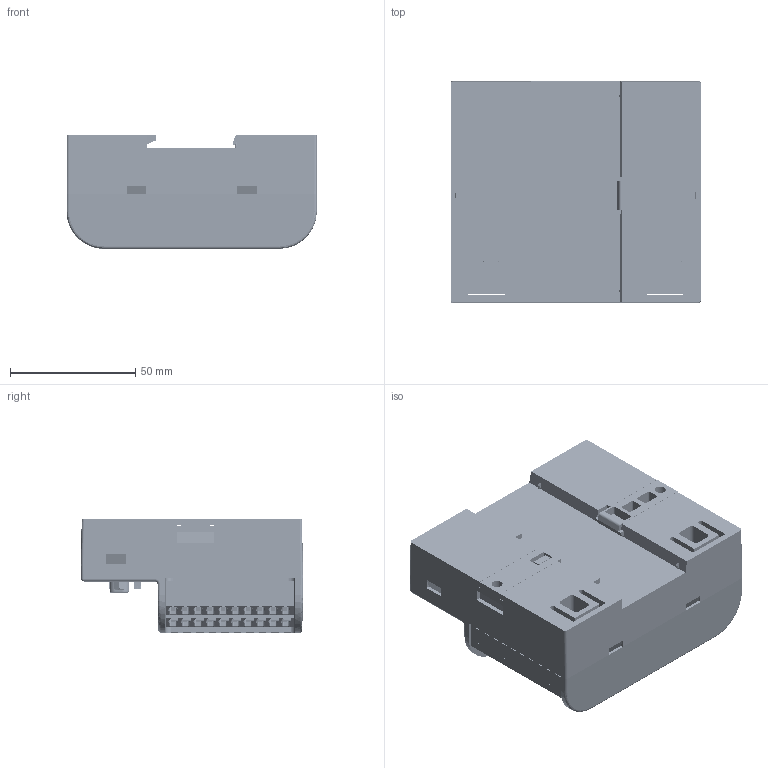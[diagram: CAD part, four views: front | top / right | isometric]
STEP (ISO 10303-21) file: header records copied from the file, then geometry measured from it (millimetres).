
FILE_DESCRIPTION(/* description */ (''),/* implementation_level */ '2;1');
FILE_NAME(/* name */ '22-152-1a.stp',/* time_stamp */ '2022-01-19T13:53:36+08:00',/* author */ (''),/* organization */ (''),/* preprocessor_version */ 'ST-DEVELOPER v16',/* originating_system */ 'SIEMENS PLM Software NX 10.0',/* authorisation */ '');
FILE_SCHEMA (('AP203_CONFIGURATION_CONTROLLED_3D_DESIGN_OF_MECHANICAL_PARTS_AND_ASSEMBLIES_MIM_LF { 1 0 10303 403 2 1 2}'));
Products named in the file (1): 73494D580734xlvb
Bounding box: 100.3 x 88.8 x 45.4 mm (x, y, z)
Volume: 286154.9 mm3; surface area: 115599.5 mm2
Topology: 27 solids, 448 shells, 22032 faces, 56447 edges, 35217 vertices
Faces by surface type: plane 12293, cylinder 5542, cone 2328, extrusion 1434, sphere 174, bspline 170, torus 91
Entity records: 675465 total; most frequent: CARTESIAN_POINT 138927, ORIENTED_EDGE 112542, DIRECTION 109250, EDGE_CURVE 56271, VECTOR 39728, LINE 38294, VERTEX_POINT 35217, AXIS2_PLACEMENT_3D 34761
